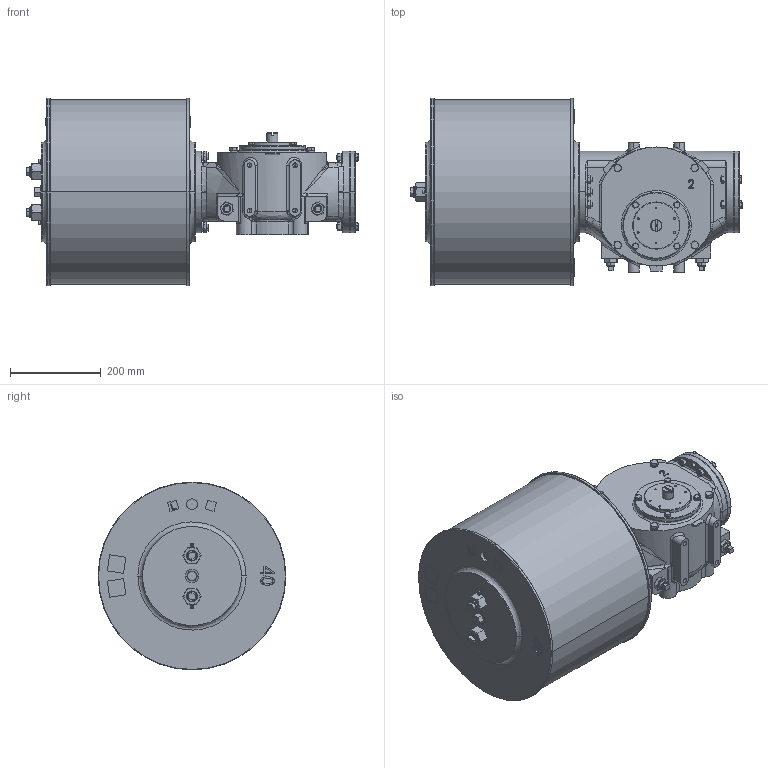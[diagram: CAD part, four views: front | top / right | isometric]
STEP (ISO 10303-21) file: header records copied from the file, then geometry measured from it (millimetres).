
FILE_DESCRIPTION (( 'STEP AP203' ), '1' );
FILE_NAME ('VTS2-400.STEP', '2023-01-01T08:39:28', ( '' ), ( '' ), 'SwSTEP 2.0', 'SolidWorks 2020', '' );
FILE_SCHEMA (( 'CONFIG_CONTROL_DESIGN' ));
Length unit declared in the file: millimetre
Products named in the file (1): VTS2-400
Bounding box: 730.58 x 413 x 413 mm (x, y, z)
Volume: 53266635.1 mm3; surface area: 1229149.2 mm2
Topology: 3 solids, 5 shells, 1521 faces, 3861 edges, 2440 vertices
Faces by surface type: plane 628, cylinder 438, cone 304, bspline 151
Entity records: 58988 total; most frequent: CARTESIAN_POINT 23489, ORIENTED_EDGE 7650, DIRECTION 7151, EDGE_CURVE 3825, AXIS2_PLACEMENT_3D 2804, VERTEX_POINT 2440, EDGE_LOOP 1695, VECTOR 1543
